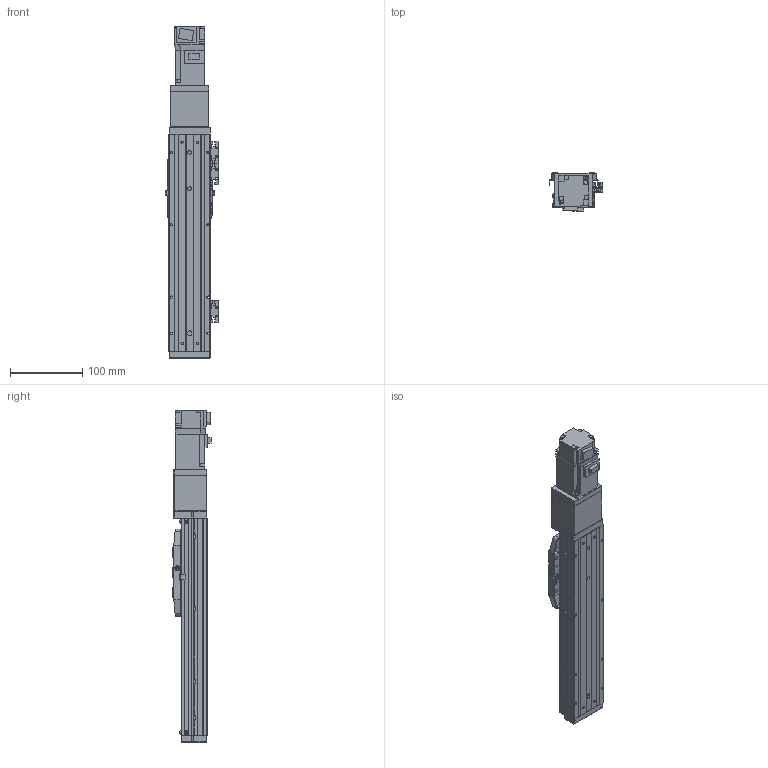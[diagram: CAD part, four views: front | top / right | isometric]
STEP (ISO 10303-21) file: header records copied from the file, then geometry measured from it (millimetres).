
FILE_DESCRIPTION (( 'STEP AP203' ), '1' );
FILE_NAME ('CTHA50-150-BC-M10-C4L.STEP', '2022-09-28T08:32:47', ( '微软用户' ), ( '微软中国' ), 'SwSTEP 2.0', 'SolidWorks 2020', '' );
FILE_SCHEMA (( 'CONFIG_CONTROL_DESIGN' ));
Length unit declared in the file: millimetre
Products named in the file (20): KTHA50-001_300; CTHA60-017; HG-KR13（三菱）; KTHA50-004; GBT 70.1-M4×12; GBT 70.3-M3℅6; KTHA50-005; CTHA60-016; CTHA50-002; GB¨uT 70.2-M3¡Á6_M3¡Á6; CTHA60-021; CTHA50-030; EE_SX911P_R; CTHA50-027; CTHA50-031; GBT77-2000 M3×3; CTHA50-006-2_CTHA60-006-2; CTHA50-150-BC-M10-C4L; GBT 70.1-M3℅6; CTHA50-013
Assembly tree (59 placements, depth 2):
  CTHA50-150-BC-M10-C4L
    KTHA50-001_300
    KTHA50-004
    KTHA50-005
    GB¨uT 70.2-M3¡Á6_M3¡Á6  x10
    EE_SX911P_R  x3
    GBT77-2000 M3×3  x6
    GBT 70.1-M3℅6  x6
    CTHA60-017  x3
    GBT 70.1-M4×12  x10
    CTHA60-016  x2
    CTHA60-021  x2
    CTHA50-027
    CTHA50-006-2_CTHA60-006-2
    CTHA50-013
    HG-KR13（三菱）
    GBT 70.3-M3℅6  x6
    CTHA50-002
    CTHA50-030  x2
    CTHA50-031
Bounding box: 74.12 x 53.3 x 458.6 mm (x, y, z)
Volume: 797303.9 mm3; surface area: 226643.7 mm2
Topology: 61 solids, 61 shells, 2376 faces, 5626 edges, 3438 vertices
Faces by surface type: plane 1366, cylinder 532, cone 358, torus 96, sphere 24
Entity records: 38052 total; most frequent: CARTESIAN_POINT 6115, DIRECTION 6080, ORIENTED_EDGE 5820, EDGE_CURVE 2910, VECTOR 2120, LINE 2120, AXIS2_PLACEMENT_3D 1980, VERTEX_POINT 1831
